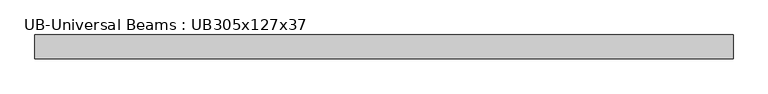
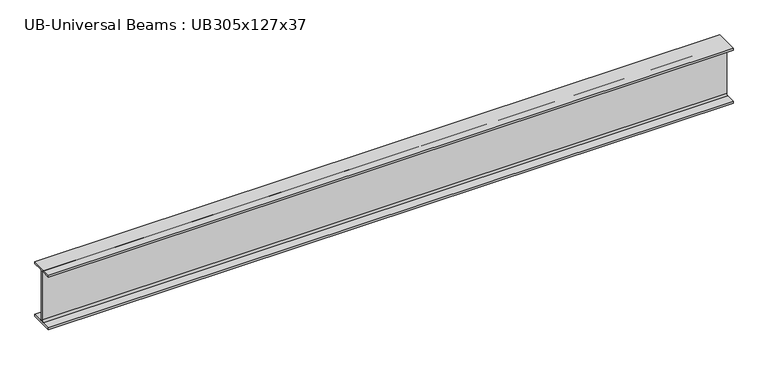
"""IFC4 building model written with IfcOpenShell, lengths in millimetres: beam geometry, UB-Universal Beams : UB305x127x37."""

import ifcopenshell
import ifcopenshell.guid

model = None  # the IFC model being written
_history = None  # IfcOwnerHistory: only IFC2X3 demands one
_inside = {}  # id of a spatial element -> (the spatial element, [elements in it])
_under = {}  # id of a project, library or spatial element -> (it, [spatial elements below it])
_declared = {}  # id of a project -> (the project, [libraries it declares])
_typed = {}  # id of a type object -> (the type object, [elements of that type])
_made_of = {}  # id of a material, layer set ... -> (it, [elements and type objects made of it])


def new_model(schema):
    """Start an empty IFC model of exactly this schema.

    Asked for "IFC4X3", IfcOpenShell would pick the latest addendum, in which some entities
    have other attributes; the version numbers below select the first issue.
    IFC2X3 requires an IfcOwnerHistory on every rooted entity: one is made here for all.
    """
    global model, _history
    if schema == "IFC4X3":
        model = ifcopenshell.file(schema_version=(4, 3, 0, 0))
    else:
        model = ifcopenshell.file(schema=schema)
    _inside.clear()
    _under.clear()
    _declared.clear()
    _typed.clear()
    _made_of.clear()
    _history = None
    if model.schema == "IFC2X3":
        org = make("IfcOrganization", Name="unknown")
        user = make(
            "IfcPersonAndOrganization",
            ThePerson=make("IfcPerson", FamilyName="unknown"),
            TheOrganization=org,
        )
        app = make(
            "IfcApplication",
            ApplicationDeveloper=org,
            Version="unknown",
            ApplicationFullName="unknown",
            ApplicationIdentifier="unknown",
        )
        _history = make(
            "IfcOwnerHistory",
            OwningUser=user,
            OwningApplication=app,
            ChangeAction="ADDED",
            CreationDate=0,
        )
    return model


def make(cls, **values):
    """One entity of the class cls with the attributes given. An attribute that is None is left unset."""
    return model.create_entity(
        cls, **{name: value for name, value in values.items() if value is not None}
    )


def rooted(cls, **values):
    """An entity with a GlobalId (a new one), such as an element, a storey or a relation."""
    return make(cls, GlobalId=ifcopenshell.guid.new(), OwnerHistory=_history, **values)


def si_unit(unit_type, name, prefix=None):
    """IfcSIUnit, for example si_unit("LENGTHUNIT", "METRE", prefix="MILLI")."""
    return make("IfcSIUnit", UnitType=unit_type, Prefix=prefix, Name=name)


def assignment(units):
    """IfcUnitAssignment: the units of a project."""
    return None if units is None else make("IfcUnitAssignment", Units=units)


def point(xyz):
    """IfcCartesianPoint."""
    return None if xyz is None else make("IfcCartesianPoint", Coordinates=xyz)


def direction(xyz):
    """IfcDirection."""
    return None if xyz is None else make("IfcDirection", DirectionRatios=xyz)


def frame(location, z_axis=None, x_axis=None):
    """IfcAxis2Placement3D, a coordinate frame: its origin and axes. An axis left out is left unset."""
    return make(
        "IfcAxis2Placement3D",
        Location=point(location),
        Axis=direction(z_axis),
        RefDirection=direction(x_axis),
    )


def frame_2d(location, x_axis=None):
    """IfcAxis2Placement2D, a coordinate frame in the plane: its origin and x axis."""
    return make(
        "IfcAxis2Placement2D", Location=point(location), RefDirection=direction(x_axis)
    )


def origin():
    """The frame at (0, 0, 0) with its axes left unset."""
    return frame((0.0, 0.0, 0.0))


def place(relative_to, where):
    """IfcLocalPlacement: puts the frame where relative to a parent placement (None: the world)."""
    return make(
        "IfcLocalPlacement", PlacementRelTo=relative_to, RelativePlacement=where
    )


def context(
    kind, dimensions, precision=None, world=None, true_north=None, identifier=None
):
    """IfcGeometricRepresentationContext, for example the 3D "Model" context."""
    return make(
        "IfcGeometricRepresentationContext",
        ContextIdentifier=identifier,
        ContextType=kind,
        CoordinateSpaceDimension=dimensions,
        Precision=precision,
        WorldCoordinateSystem=world,
        TrueNorth=true_north,
    )


def project(units=None, contexts=None):
    """IfcProject with its units and contexts."""
    return rooted(
        "IfcProject",
        Name="project",
        RepresentationContexts=contexts,
        UnitsInContext=assignment(units),
    )


def spatial(cls, under=None, at=None, **own):
    """A site, building, storey or space (cls), placed at a placement, below another one or the project."""
    s = rooted(cls, ObjectPlacement=at, **own)
    if under is not None:
        _under.setdefault(under.id(), (under, []))[1].append(s)
    return s


def polyline(points):
    """IfcPolyline through the points."""
    return make("IfcPolyline", Points=[point(p) for p in points])


def circle_curve(where, radius):
    """IfcCircle in the frame where."""
    return make("IfcCircle", Position=where, Radius=radius)


def trimmed(basis, trim1, trim2, sense, master):
    """IfcTrimmedCurve: the piece of a basis curve between two trims."""
    return make(
        "IfcTrimmedCurve",
        BasisCurve=basis,
        Trim1=trim1,
        Trim2=trim2,
        SenseAgreement=sense,
        MasterRepresentation=master,
    )


def segment(curve, same_sense, transition):
    """IfcCompositeCurveSegment."""
    return make(
        "IfcCompositeCurveSegment",
        Transition=transition,
        SameSense=same_sense,
        ParentCurve=curve,
    )


def composite_curve(segments, self_intersect=None):
    """IfcCompositeCurve: segments joined end to end."""
    return make("IfcCompositeCurve", Segments=segments, SelfIntersect=self_intersect)


def outline(outer, holes=None, kind="AREA"):
    """IfcArbitraryClosedProfileDef: a profile drawn as a closed curve; with holes, ...WithVoids."""
    if holes is None:
        return make("IfcArbitraryClosedProfileDef", ProfileType=kind, OuterCurve=outer)
    return make(
        "IfcArbitraryProfileDefWithVoids",
        ProfileType=kind,
        OuterCurve=outer,
        InnerCurves=holes,
    )


def extrude(swept, where, along, depth):
    """IfcExtrudedAreaSolid: the profile swept, set in the frame where, extruded along a direction by depth."""
    return make(
        "IfcExtrudedAreaSolid",
        SweptArea=swept,
        Position=where,
        ExtrudedDirection=direction(along),
        Depth=depth,
    )


def shape(context_of_items, identifier, shape_type, items):
    """IfcShapeRepresentation: the items that make up one representation, for example the "Body"."""
    return make(
        "IfcShapeRepresentation",
        ContextOfItems=context_of_items,
        RepresentationIdentifier=identifier,
        RepresentationType=shape_type,
        Items=items,
    )


def source(mapping_origin, context_of_items, identifier, shape_type, items):
    """IfcRepresentationMap: a shape defined once, which mapped items show again and again."""
    return make(
        "IfcRepresentationMap",
        MappingOrigin=mapping_origin,
        MappedRepresentation=shape(context_of_items, identifier, shape_type, items),
    )


def transform(
    local_origin,
    x_axis=None,
    y_axis=None,
    z_axis=None,
    scale=None,
    scale2=None,
    scale3=None,
    uniform=True,
):
    """IfcCartesianTransformationOperator3D, or its non-uniform kind. x_axis, y_axis, z_axis: its Axis1, 2, 3."""
    if uniform:
        return make(
            "IfcCartesianTransformationOperator3D",
            Axis1=direction(x_axis),
            Axis2=direction(y_axis),
            LocalOrigin=point(local_origin),
            Scale=scale,
            Axis3=direction(z_axis),
        )
    return make(
        "IfcCartesianTransformationOperator3DnonUniform",
        Axis1=direction(x_axis),
        Axis2=direction(y_axis),
        LocalOrigin=point(local_origin),
        Scale=scale,
        Axis3=direction(z_axis),
        Scale2=scale2,
        Scale3=scale3,
    )


def mapped(mapping_source, mapping_target):
    """IfcMappedItem: shows the shape of a source again, moved by a transform."""
    return make(
        "IfcMappedItem", MappingSource=mapping_source, MappingTarget=mapping_target
    )


def made_of(thing, what):
    """Note that an element or type object is made of a material, layer set ...; save() writes the relation."""
    if what is not None:
        _made_of.setdefault(what.id(), (what, []))[1].append(thing)
    return thing


def element(
    cls,
    number,
    at=None,
    inside=None,
    cuts=None,
    type_object=None,
    material=None,
    context=None,
    identifier="Body",
    shape_type=None,
    held_by="IfcProductDefinitionShape",
    body=None,
    shapes=None,
    **own,
):
    """One element of the class cls, such as IfcWall. Its Tag is "e" and its number.

    at: its placement. inside: the storey or other place that contains it. cuts: it is an
    opening in that element (IfcRelVoidsElement). A single representation is given by context,
    identifier, shape_type and body (its items); several are given by shapes. held_by: the class
    of the entity that holds the representations. save() writes the other relations.
    """
    e = rooted(cls, Tag="e%d" % number, ObjectPlacement=at, **own)
    if body is not None:
        shapes = [shape(context, identifier, shape_type, body)]
    if shapes is not None:
        e.Representation = make(held_by, Representations=shapes)
    if inside is not None:
        _inside.setdefault(inside.id(), (inside, []))[1].append(e)
    if cuts is not None:
        rooted(
            "IfcRelVoidsElement", RelatingBuildingElement=cuts, RelatedOpeningElement=e
        )
    if type_object is not None:
        _typed.setdefault(type_object.id(), (type_object, []))[1].append(e)
    return made_of(e, material)


def aggregate(whole, parts):
    """IfcRelAggregates: a whole, such as a stair, and the parts it consists of."""
    return rooted("IfcRelAggregates", RelatingObject=whole, RelatedObjects=parts)


def save(model, path):
    """Write the relations noted so far, then the file.

    IfcRelAggregates (storeys below a building ...), IfcRelContainedInSpatialStructure (elements
    in a storey), IfcRelDefinesByType, IfcRelAssociatesMaterial and IfcRelDeclares: one each for
    every whole, place, type object, material and project.
    """
    for whole, parts in _under.values():
        aggregate(whole, parts)
    for where, things in _inside.values():
        rooted(
            "IfcRelContainedInSpatialStructure",
            RelatedElements=things,
            RelatingStructure=where,
        )
    for kind, things in _typed.values():
        rooted("IfcRelDefinesByType", RelatedObjects=things, RelatingType=kind)
    for what, things in _made_of.values():
        rooted("IfcRelAssociatesMaterial", RelatedObjects=things, RelatingMaterial=what)
    for by, libraries in _declared.values():
        rooted("IfcRelDeclares", RelatingContext=by, RelatedDefinitions=libraries)
    model.write(path)


def ub_universal_beams_ub305x127x37_7b5c5eb2(model_context):
    return source(origin(), model_context, "Body", "SweptSolid", [
        extrude(outline(composite_curve([segment(polyline([(61.7, -141.5), (61.7, -152.2), (-61.7, -152.2), (-61.7, -141.5), (-12.45, -141.5)]), True, "CONTINUOUS"), segment(trimmed(circle_curve(frame_2d((-12.45, -132.6)), 8.9), [point((-12.45, -141.5))], [point((-3.55, -132.6))], True, "CARTESIAN"), True, "CONTINUOUS"), segment(polyline([(-3.55, -132.6), (-3.55, 132.6)]), True, "CONTINUOUS"), segment(trimmed(circle_curve(frame_2d((-12.45, 132.6)), 8.9), [point((-3.55, 132.6))], [point((-12.45, 141.5))], True, "CARTESIAN"), True, "CONTINUOUS"), segment(polyline([(-12.45, 141.5), (-61.7, 141.5), (-61.7, 152.2), (61.7, 152.2), (61.7, 141.5), (12.45, 141.5)]), True, "CONTINUOUS"), segment(trimmed(circle_curve(frame_2d((12.45, 132.6)), 8.9), [point((12.45, 141.5))], [point((3.55, 132.6))], True, "CARTESIAN"), True, "CONTINUOUS"), segment(polyline([(3.55, 132.6), (3.55, -132.6)]), True, "CONTINUOUS"), segment(trimmed(circle_curve(frame_2d((12.45, -132.6)), 8.9), [point((3.55, -132.6))], [point((12.45, -141.5))], True, "CARTESIAN"), True, "CONTINUOUS"), segment(polyline([(12.45, -141.5), (61.7, -141.5)]), True, "CONTINUOUS")], self_intersect=False)), frame((-1749.8, 0.0, 0.0), z_axis=(1.0, 0.0, 0.0), x_axis=(0.0, 1.0, 0.0)), (0.0, 0.0, 1.0), 3599.5),
    ])


if __name__ == "__main__":
    model = new_model("IFC4")
    model_context = context("Model", 3, world=origin())
    ifc_project = project(units=[si_unit("LENGTHUNIT", "METRE", prefix="MILLI")], contexts=[model_context])
    site = spatial("IfcSite", under=ifc_project)
    building = spatial("IfcBuilding", under=site)
    placement = place(None, origin())
    ub_universal_beams_ub305x127x37_shape = ub_universal_beams_ub305x127x37_7b5c5eb2(model_context)
    element("IfcBeam", 1, ObjectType="UB-Universal Beams : UB305x127x37", at=placement, inside=building, context=model_context, shape_type="MappedRepresentation", body=[
        mapped(ub_universal_beams_ub305x127x37_shape, transform((0.0, 0.0, 0.0), x_axis=(1.0, 0.0, 0.0), y_axis=(0.0, 1.0, 0.0), z_axis=(0.0, 0.0, 1.0))),
    ])
    save(model, "model.ifc")
